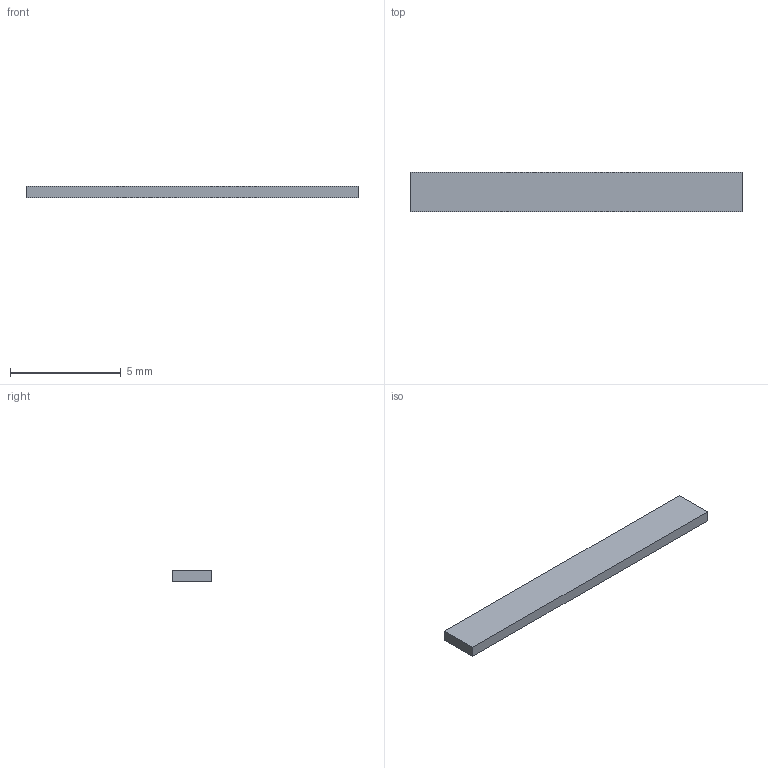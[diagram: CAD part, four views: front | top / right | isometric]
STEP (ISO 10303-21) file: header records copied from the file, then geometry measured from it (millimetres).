
FILE_DESCRIPTION(('Open CASCADE Model'),'2;1');
FILE_NAME('Open CASCADE Shape Model','2026-09-06T11:33:39',('Author'),( 'Open CASCADE'),'Open CASCADE STEP processor 7.7','Open CASCADE 7.7' ,'Unknown');
FILE_SCHEMA(('AUTOMOTIVE_DESIGN { 1 0 10303 214 1 1 1 1 }'));
Length unit declared in the file: millimetre
Products named in the file (1): Open CASCADE STEP translator 7.7 1
Bounding box: 15 x 1.8 x 0.5 mm (x, y, z)
Volume: 13.5 mm3; surface area: 70.8 mm2
Topology: 1 solids, 1 shells, 6 faces, 12 edges, 8 vertices
Faces by surface type: plane 6
Entity records: 322 total; most frequent: CARTESIAN_POINT 51, DIRECTION 50, LINE 36, VECTOR 36, ORIENTED_EDGE 24, PCURVE 24, DEFINITIONAL_REPRESENTATION 24, EDGE_CURVE 12
